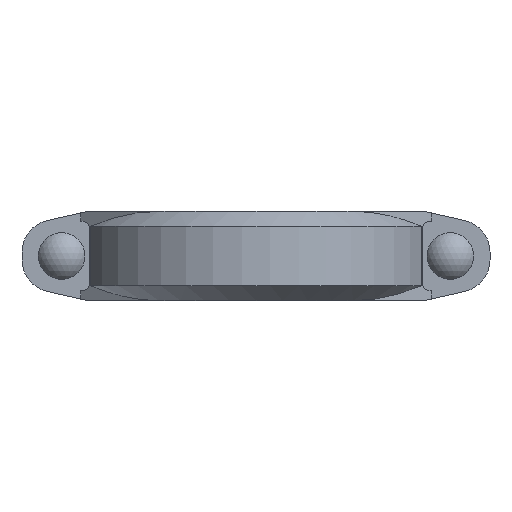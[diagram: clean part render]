
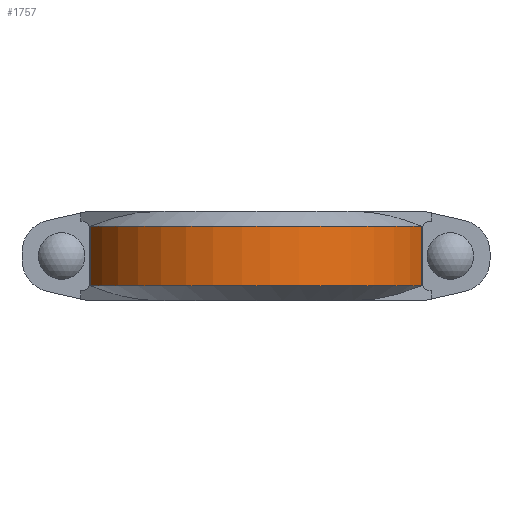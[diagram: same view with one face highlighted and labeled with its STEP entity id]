
A CAD part, front view. The second image highlights one B-rep face of the part: STEP entity #1757.
In plain terms, the highlighted cylindrical face has radius 103.251 mm (diameter 206.502 mm), a partial arc.
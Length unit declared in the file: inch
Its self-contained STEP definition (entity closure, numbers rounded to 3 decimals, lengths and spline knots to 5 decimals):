
#194=FACE_OUTER_BOUND('',#290,.T.);
#290=EDGE_LOOP('',(#1431,#1432,#1433,#1434));
#371=LINE('',#2644,#528);
#439=LINE('',#2846,#596);
#528=VECTOR('',#2130,0.3937);
#596=VECTOR('',#2292,0.3937);
#679=CIRCLE('',#1914,4.065);
#683=CIRCLE('',#1921,4.065);
#756=VERTEX_POINT('',#2639);
#757=VERTEX_POINT('',#2643);
#825=VERTEX_POINT('',#2841);
#826=VERTEX_POINT('',#2845);
#937=EDGE_CURVE('',#757,#756,#371,.T.);
#1032=EDGE_CURVE('',#826,#825,#439,.T.);
#1047=EDGE_CURVE('',#756,#826,#679,.T.);
#1054=EDGE_CURVE('',#757,#825,#683,.T.);
#1431=ORIENTED_EDGE('',*,*,#937,.T.);
#1432=ORIENTED_EDGE('',*,*,#1047,.T.);
#1433=ORIENTED_EDGE('',*,*,#1032,.T.);
#1434=ORIENTED_EDGE('',*,*,#1054,.F.);
#1597=CYLINDRICAL_SURFACE('',#1920,4.065);
#1757=ADVANCED_FACE('',(#194),#1597,.T.);
#1914=AXIS2_PLACEMENT_3D('',#2876,#2319,#2320);
#1920=AXIS2_PLACEMENT_3D('',#2889,#2334,#2335);
#1921=AXIS2_PLACEMENT_3D('',#2890,#2336,#2337);
#2130=DIRECTION('',(0.,0.,1.));
#2292=DIRECTION('',(0.,0.,-1.));
#2319=DIRECTION('center_axis',(0.,0.,-1.));
#2320=DIRECTION('ref_axis',(0.,-1.,0.));
#2334=DIRECTION('center_axis',(0.,0.,-1.));
#2335=DIRECTION('ref_axis',(0.,-1.,0.));
#2336=DIRECTION('center_axis',(0.,0.,-1.));
#2337=DIRECTION('ref_axis',(0.,-1.,0.));
#2639=CARTESIAN_POINT('',(3.83371,-1.35162,0.6875));
#2643=CARTESIAN_POINT('',(3.83371,-1.35162,-0.6875));
#2644=CARTESIAN_POINT('',(3.83371,-1.35162,0.));
#2841=CARTESIAN_POINT('',(-3.83371,-1.35162,-0.6875));
#2845=CARTESIAN_POINT('',(-3.83371,-1.35162,0.6875));
#2846=CARTESIAN_POINT('',(-3.83371,-1.35162,0.));
#2876=CARTESIAN_POINT('Origin',(0.,0.,0.6875));
#2889=CARTESIAN_POINT('Origin',(0.,0.,0.));
#2890=CARTESIAN_POINT('Origin',(0.,0.,-0.6875));
